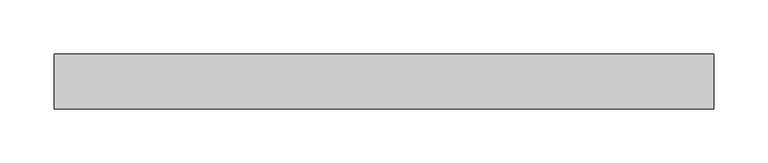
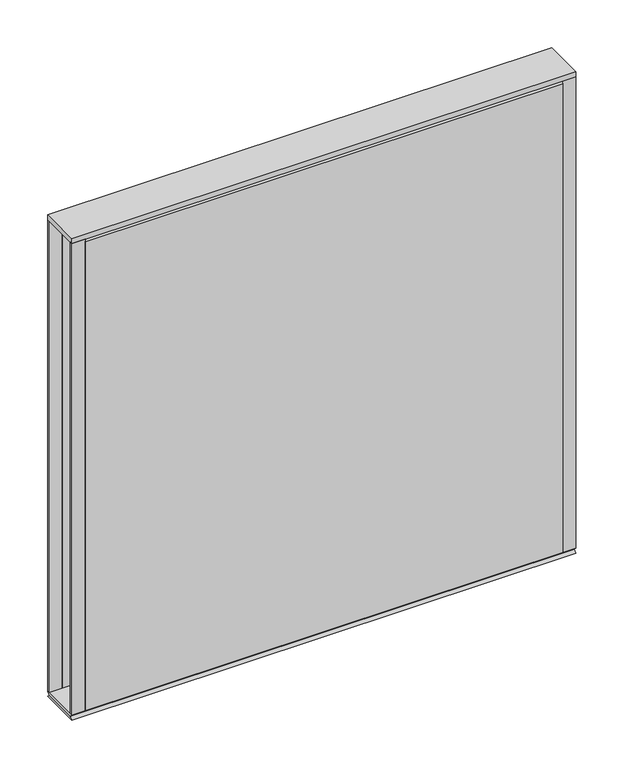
"""IFC4 building model written with IfcOpenShell, lengths in millimetres: furniture geometry, Steelcase - Kick Solutions - Panel - Stacker - Tackable Acoustical : 24H x 24W."""

import ifcopenshell
import ifcopenshell.guid

model = None  # the IFC model being written
_history = None  # IfcOwnerHistory: only IFC2X3 demands one
_inside = {}  # id of a spatial element -> (the spatial element, [elements in it])
_under = {}  # id of a project, library or spatial element -> (it, [spatial elements below it])
_declared = {}  # id of a project -> (the project, [libraries it declares])
_typed = {}  # id of a type object -> (the type object, [elements of that type])
_made_of = {}  # id of a material, layer set ... -> (it, [elements and type objects made of it])


def new_model(schema):
    """Start an empty IFC model of exactly this schema.

    Asked for "IFC4X3", IfcOpenShell would pick the latest addendum, in which some entities
    have other attributes; the version numbers below select the first issue.
    IFC2X3 requires an IfcOwnerHistory on every rooted entity: one is made here for all.
    """
    global model, _history
    if schema == "IFC4X3":
        model = ifcopenshell.file(schema_version=(4, 3, 0, 0))
    else:
        model = ifcopenshell.file(schema=schema)
    _inside.clear()
    _under.clear()
    _declared.clear()
    _typed.clear()
    _made_of.clear()
    _history = None
    if model.schema == "IFC2X3":
        org = make("IfcOrganization", Name="unknown")
        user = make(
            "IfcPersonAndOrganization",
            ThePerson=make("IfcPerson", FamilyName="unknown"),
            TheOrganization=org,
        )
        app = make(
            "IfcApplication",
            ApplicationDeveloper=org,
            Version="unknown",
            ApplicationFullName="unknown",
            ApplicationIdentifier="unknown",
        )
        _history = make(
            "IfcOwnerHistory",
            OwningUser=user,
            OwningApplication=app,
            ChangeAction="ADDED",
            CreationDate=0,
        )
    return model


def make(cls, **values):
    """One entity of the class cls with the attributes given. An attribute that is None is left unset."""
    return model.create_entity(
        cls, **{name: value for name, value in values.items() if value is not None}
    )


def rooted(cls, **values):
    """An entity with a GlobalId (a new one), such as an element, a storey or a relation."""
    return make(cls, GlobalId=ifcopenshell.guid.new(), OwnerHistory=_history, **values)


def si_unit(unit_type, name, prefix=None):
    """IfcSIUnit, for example si_unit("LENGTHUNIT", "METRE", prefix="MILLI")."""
    return make("IfcSIUnit", UnitType=unit_type, Prefix=prefix, Name=name)


def assignment(units):
    """IfcUnitAssignment: the units of a project."""
    return None if units is None else make("IfcUnitAssignment", Units=units)


def point(xyz):
    """IfcCartesianPoint."""
    return None if xyz is None else make("IfcCartesianPoint", Coordinates=xyz)


def direction(xyz):
    """IfcDirection."""
    return None if xyz is None else make("IfcDirection", DirectionRatios=xyz)


def frame(location, z_axis=None, x_axis=None):
    """IfcAxis2Placement3D, a coordinate frame: its origin and axes. An axis left out is left unset."""
    return make(
        "IfcAxis2Placement3D",
        Location=point(location),
        Axis=direction(z_axis),
        RefDirection=direction(x_axis),
    )


def origin():
    """The frame at (0, 0, 0) with its axes left unset."""
    return frame((0.0, 0.0, 0.0))


def place(relative_to, where):
    """IfcLocalPlacement: puts the frame where relative to a parent placement (None: the world)."""
    return make(
        "IfcLocalPlacement", PlacementRelTo=relative_to, RelativePlacement=where
    )


def context(
    kind, dimensions, precision=None, world=None, true_north=None, identifier=None
):
    """IfcGeometricRepresentationContext, for example the 3D "Model" context."""
    return make(
        "IfcGeometricRepresentationContext",
        ContextIdentifier=identifier,
        ContextType=kind,
        CoordinateSpaceDimension=dimensions,
        Precision=precision,
        WorldCoordinateSystem=world,
        TrueNorth=true_north,
    )


def project(units=None, contexts=None):
    """IfcProject with its units and contexts."""
    return rooted(
        "IfcProject",
        Name="project",
        RepresentationContexts=contexts,
        UnitsInContext=assignment(units),
    )


def spatial(cls, under=None, at=None, **own):
    """A site, building, storey or space (cls), placed at a placement, below another one or the project."""
    s = rooted(cls, ObjectPlacement=at, **own)
    if under is not None:
        _under.setdefault(under.id(), (under, []))[1].append(s)
    return s


def polyline(points):
    """IfcPolyline through the points."""
    return make("IfcPolyline", Points=[point(p) for p in points])


def outline(outer, holes=None, kind="AREA"):
    """IfcArbitraryClosedProfileDef: a profile drawn as a closed curve; with holes, ...WithVoids."""
    if holes is None:
        return make("IfcArbitraryClosedProfileDef", ProfileType=kind, OuterCurve=outer)
    return make(
        "IfcArbitraryProfileDefWithVoids",
        ProfileType=kind,
        OuterCurve=outer,
        InnerCurves=holes,
    )


def extrude(swept, where, along, depth):
    """IfcExtrudedAreaSolid: the profile swept, set in the frame where, extruded along a direction by depth."""
    return make(
        "IfcExtrudedAreaSolid",
        SweptArea=swept,
        Position=where,
        ExtrudedDirection=direction(along),
        Depth=depth,
    )


def shape(context_of_items, identifier, shape_type, items):
    """IfcShapeRepresentation: the items that make up one representation, for example the "Body"."""
    return make(
        "IfcShapeRepresentation",
        ContextOfItems=context_of_items,
        RepresentationIdentifier=identifier,
        RepresentationType=shape_type,
        Items=items,
    )


def source(mapping_origin, context_of_items, identifier, shape_type, items):
    """IfcRepresentationMap: a shape defined once, which mapped items show again and again."""
    return make(
        "IfcRepresentationMap",
        MappingOrigin=mapping_origin,
        MappedRepresentation=shape(context_of_items, identifier, shape_type, items),
    )


def transform(
    local_origin,
    x_axis=None,
    y_axis=None,
    z_axis=None,
    scale=None,
    scale2=None,
    scale3=None,
    uniform=True,
):
    """IfcCartesianTransformationOperator3D, or its non-uniform kind. x_axis, y_axis, z_axis: its Axis1, 2, 3."""
    if uniform:
        return make(
            "IfcCartesianTransformationOperator3D",
            Axis1=direction(x_axis),
            Axis2=direction(y_axis),
            LocalOrigin=point(local_origin),
            Scale=scale,
            Axis3=direction(z_axis),
        )
    return make(
        "IfcCartesianTransformationOperator3DnonUniform",
        Axis1=direction(x_axis),
        Axis2=direction(y_axis),
        LocalOrigin=point(local_origin),
        Scale=scale,
        Axis3=direction(z_axis),
        Scale2=scale2,
        Scale3=scale3,
    )


def mapped(mapping_source, mapping_target):
    """IfcMappedItem: shows the shape of a source again, moved by a transform."""
    return make(
        "IfcMappedItem", MappingSource=mapping_source, MappingTarget=mapping_target
    )


def made_of(thing, what):
    """Note that an element or type object is made of a material, layer set ...; save() writes the relation."""
    if what is not None:
        _made_of.setdefault(what.id(), (what, []))[1].append(thing)
    return thing


def element(
    cls,
    number,
    at=None,
    inside=None,
    cuts=None,
    type_object=None,
    material=None,
    context=None,
    identifier="Body",
    shape_type=None,
    held_by="IfcProductDefinitionShape",
    body=None,
    shapes=None,
    **own,
):
    """One element of the class cls, such as IfcWall. Its Tag is "e" and its number.

    at: its placement. inside: the storey or other place that contains it. cuts: it is an
    opening in that element (IfcRelVoidsElement). A single representation is given by context,
    identifier, shape_type and body (its items); several are given by shapes. held_by: the class
    of the entity that holds the representations. save() writes the other relations.
    """
    e = rooted(cls, Tag="e%d" % number, ObjectPlacement=at, **own)
    if body is not None:
        shapes = [shape(context, identifier, shape_type, body)]
    if shapes is not None:
        e.Representation = make(held_by, Representations=shapes)
    if inside is not None:
        _inside.setdefault(inside.id(), (inside, []))[1].append(e)
    if cuts is not None:
        rooted(
            "IfcRelVoidsElement", RelatingBuildingElement=cuts, RelatedOpeningElement=e
        )
    if type_object is not None:
        _typed.setdefault(type_object.id(), (type_object, []))[1].append(e)
    return made_of(e, material)


def aggregate(whole, parts):
    """IfcRelAggregates: a whole, such as a stair, and the parts it consists of."""
    return rooted("IfcRelAggregates", RelatingObject=whole, RelatedObjects=parts)


def save(model, path):
    """Write the relations noted so far, then the file.

    IfcRelAggregates (storeys below a building ...), IfcRelContainedInSpatialStructure (elements
    in a storey), IfcRelDefinesByType, IfcRelAssociatesMaterial and IfcRelDeclares: one each for
    every whole, place, type object, material and project.
    """
    for whole, parts in _under.values():
        aggregate(whole, parts)
    for where, things in _inside.values():
        rooted(
            "IfcRelContainedInSpatialStructure",
            RelatedElements=things,
            RelatingStructure=where,
        )
    for kind, things in _typed.values():
        rooted("IfcRelDefinesByType", RelatedObjects=things, RelatingType=kind)
    for what, things in _made_of.values():
        rooted("IfcRelAssociatesMaterial", RelatedObjects=things, RelatingMaterial=what)
    for by, libraries in _declared.values():
        rooted("IfcRelDeclares", RelatingContext=by, RelatedDefinitions=libraries)
    model.write(path)


def furniture_ef1515ae(model_context):
    return source(origin(), model_context, "Body", "SweptSolid", [
        extrude(outline(polyline([(-50.7995075, 1073.2669139), (-0.000494, 1073.2669139), (-3.1752531, 1070.0921549), (-47.6247484, 1070.0921549), (-50.7995075, 1073.2669139)])), frame((0.0, 0.0, 0.0), z_axis=(1.0, 0.0, 0.0), x_axis=(0.0, 1.0, 0.0)), (0.0, 0.0, 1.0), 609.6),
        extrude(outline(polyline([(0.0, 1073.2669139), (-3.1750015, 1073.2669139), (-3.1750015, 1676.5169018), (0.0, 1673.4357466), (0.0, 1073.2669139)])), frame((15.8749996, 0.0, 0.0), z_axis=(1.0, 0.0, 0.0), x_axis=(0.0, 1.0, 0.0)), (0.0, 0.0, 1.0), 577.8500008),
        extrude(outline(polyline([(-50.8000015, 1073.2669139), (-50.8000015, 1673.4357466), (-47.625, 1676.5169018), (-47.625, 1073.2669139), (-50.8000015, 1073.2669139)])), frame((15.8749996, 0.0, 0.0), z_axis=(1.0, 0.0, 0.0), x_axis=(0.0, 1.0, 0.0)), (0.0, 0.0, 1.0), 577.8500008),
        extrude(outline(polyline([(609.6, -3.1750015), (593.7250004, -3.1750015), (593.7250004, 0.0), (609.6, 0.0), (609.6, -3.1750015)])), frame((0.0, 0.0, 1073.2669139), z_axis=(0.0, 0.0, 1.0), x_axis=(1.0, 0.0, 0.0)), (0.0, 0.0, 1.0), 603.2499879),
        extrude(outline(polyline([(15.8749996, -50.8000015), (0.0, -50.8000015), (0.0, -47.625), (15.8749996, -47.625), (15.8749996, -50.8000015)])), frame((0.0, 0.0, 1073.2669139), z_axis=(0.0, 0.0, 1.0), x_axis=(1.0, 0.0, 0.0)), (0.0, 0.0, 1.0), 603.2499879),
        extrude(outline(polyline([(609.6, 0.0), (609.6, -50.8000015), (0.0, -50.8000015), (0.0, 0.0), (609.6, 0.0)])), frame((0.0, 0.0, 1676.5169018), z_axis=(0.0, 0.0, 1.0), x_axis=(1.0, 0.0, 0.0)), (0.0, 0.0, 1.0), 6.35),
        extrude(outline(polyline([(15.8749996, -3.1750015), (0.0, -3.1750015), (0.0, 0.0), (15.8749996, 0.0), (15.8749996, -3.1750015)])), frame((0.0, 0.0, 1073.2669139), z_axis=(0.0, 0.0, 1.0), x_axis=(1.0, 0.0, 0.0)), (0.0, 0.0, 1.0), 603.2499879),
        extrude(outline(polyline([(609.6, -50.8000015), (593.7250004, -50.8000015), (593.7250004, -47.625), (609.6, -47.625), (609.6, -50.8000015)])), frame((0.0, 0.0, 1073.2669139), z_axis=(0.0, 0.0, 1.0), x_axis=(1.0, 0.0, 0.0)), (0.0, 0.0, 1.0), 603.2499879),
        extrude(outline(polyline([(-50.8000015, 1066.9169018), (-47.6247484, 1070.0921549), (-3.1752531, 1070.0921549), (0.0, 1066.9169018), (-50.8000015, 1066.9169018)])), frame((0.0, 0.0, 0.0), z_axis=(1.0, 0.0, 0.0), x_axis=(0.0, 1.0, 0.0)), (0.0, 0.0, 1.0), 609.6),
    ])


if __name__ == "__main__":
    model = new_model("IFC4")
    model_context = context("Model", 3, world=origin())
    ifc_project = project(units=[si_unit("LENGTHUNIT", "METRE", prefix="MILLI")], contexts=[model_context])
    site = spatial("IfcSite", under=ifc_project)
    building = spatial("IfcBuilding", under=site)
    placement = place(None, origin())
    furniture_shape = furniture_ef1515ae(model_context)
    element("IfcFurniture", 1, ObjectType="Steelcase - Kick Solutions - Panel - Stacker - Tackable Acoustical : 24H x 24W", at=placement, inside=building, context=model_context, shape_type="MappedRepresentation", body=[
        mapped(furniture_shape, transform((0.0, 0.0, 0.0), x_axis=(1.0, 0.0, 0.0), y_axis=(0.0, 1.0, 0.0), z_axis=(0.0, 0.0, 1.0))),
    ])
    save(model, "model.ifc")
